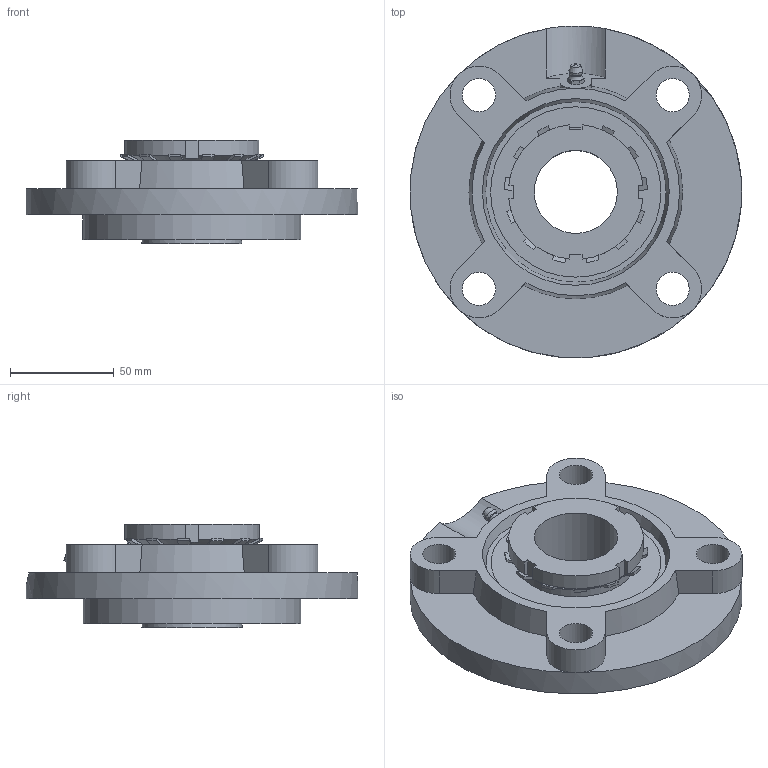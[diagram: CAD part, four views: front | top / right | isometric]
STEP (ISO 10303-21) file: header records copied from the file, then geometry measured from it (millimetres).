
FILE_DESCRIPTION((''),'2;1');
FILE_NAME('\\Ts-tgl068\j-cad-d-base\00.3DCADデータ作成フォルダ\02.フランジ形\UKFC200\UKFC209+H.stp','2014-11-20T16:42:40',('btec_1106_2'),(''),'Autodesk Inventor 2012','Autodesk Inventor 2012','');
FILE_SCHEMA(('AUTOMOTIVE_DESIGN { 1 0 10303 214 1 1 1 1 }'));
Length unit declared in the file: millimetre
Products named in the file (4): UKFC200+H; FC209; UK209; GU1
Assembly tree (3 placements, depth 2):
  UKFC200+H
    FC209
    UK209
    GU1
Bounding box: 159.81 x 159.95 x 50 mm (x, y, z)
Volume: 386338 mm3; surface area: 88194.1 mm2
Topology: 3 solids, 3 shells, 182 faces, 482 edges, 313 vertices
Faces by surface type: plane 79, cone 50, cylinder 45, sphere 4, bspline 2, torus 2
Full cylindrical faces by diameter (mm): 5.359 x1, 6.35 x1, 16 x4, 40 x1, 57.3 x2, 105 x1, 160 x1
Entity records: 5606 total; most frequent: CARTESIAN_POINT 1313, ORIENTED_EDGE 904, DIRECTION 853, EDGE_CURVE 452, AXIS2_PLACEMENT_3D 348, VERTEX_POINT 302, EDGE_LOOP 225, FACE_OUTER_BOUND 182
